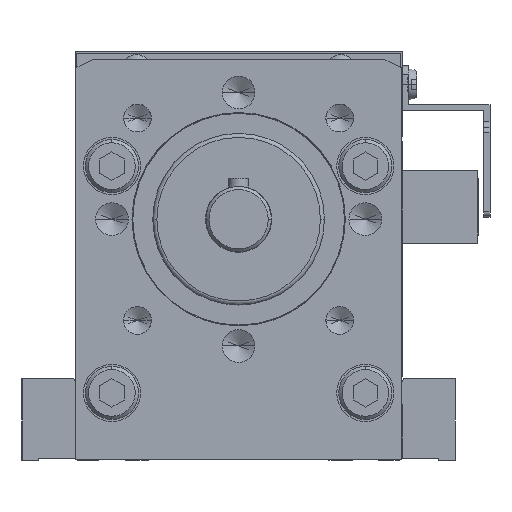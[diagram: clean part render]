
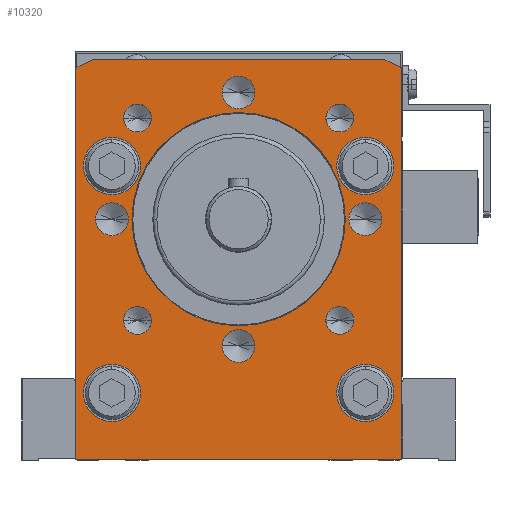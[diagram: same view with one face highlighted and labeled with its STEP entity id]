
A CAD part, front view. The second image highlights one B-rep face of the part: STEP entity #10320.
In plain terms, the highlighted planar face has unit normal (0, -1, 0) as drawn and (0, 0, 1) by its records, which use the part's own axes.
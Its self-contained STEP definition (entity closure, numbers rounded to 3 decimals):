
#7560=CARTESIAN_POINT('',(0.,997.085,388.));
#7570=DIRECTION('',(0.894,-0.447,
0.));
#7580=VECTOR('',#7570,1.);
#7590=LINE('',#7560,#7580);
#7600=CARTESIAN_POINT('',(1645.85,174.16,
388.));
#7610=VERTEX_POINT('',#7600);
#7620=CARTESIAN_POINT('',(1649.85,172.16,
388.));
#7630=VERTEX_POINT('',#7620);
#7640=EDGE_CURVE('',#7610,#7630,#7590,.T.);
#7910=CARTESIAN_POINT('',(1599.825,134.622,
388.));
#7920=DIRECTION('',(0.,0.,-1.));
#7930=DIRECTION('',(-1.,0.,0.));
#7940=AXIS2_PLACEMENT_3D('',#7910,#7920,#7930);
#7950=PLANE('',#7940);
#7960=CARTESIAN_POINT('',(1610.05,104.16,
388.));
#7970=DIRECTION('',(0.,0.,1.));
#7980=DIRECTION('',(-1.,0.,0.));
#7990=AXIS2_PLACEMENT_3D('',#7960,#7970,#7980);
#8000=CIRCLE('',#7990,4.);
#8010=CARTESIAN_POINT('',(1606.05,104.16,
388.));
#8020=VERTEX_POINT('',#8010);
#8030=CARTESIAN_POINT('',(1614.05,104.16,
388.));
#8040=VERTEX_POINT('',#8030);
#8050=EDGE_CURVE('',#8020,#8040,#8000,.T.);
#8060=ORIENTED_EDGE('',*,*,#8050,.F.);
#8070=EDGE_CURVE('',#8040,#8020,#8000,.T.);
#8080=ORIENTED_EDGE('',*,*,#8070,.F.);
#8090=EDGE_LOOP('',(#8080,#8060));
#8100=FACE_BOUND('',#8090,.T.);
#8110=CARTESIAN_POINT('',(1641.05,135.16,
388.));
#8120=DIRECTION('',(0.,0.,1.));
#8130=DIRECTION('',(-1.,0.,0.));
#8140=AXIS2_PLACEMENT_3D('',#8110,#8120,#8130);
#8150=CIRCLE('',#8140,4.);
#8160=CARTESIAN_POINT('',(1637.05,135.16,
388.));
#8170=VERTEX_POINT('',#8160);
#8180=CARTESIAN_POINT('',(1645.05,135.16,
388.));
#8190=VERTEX_POINT('',#8180);
#8200=EDGE_CURVE('',#8170,#8190,#8150,.T.);
#8210=ORIENTED_EDGE('',*,*,#8200,.F.);
#8220=EDGE_CURVE('',#8190,#8170,#8150,.T.);
#8230=ORIENTED_EDGE('',*,*,#8220,.F.);
#8240=EDGE_LOOP('',(#8230,#8210));
#8250=FACE_BOUND('',#8240,.T.);
#8260=CARTESIAN_POINT('',(1579.05,135.16,
388.));
#8270=DIRECTION('',(0.,0.,1.));
#8280=DIRECTION('',(-1.,0.,0.));
#8290=AXIS2_PLACEMENT_3D('',#8260,#8270,#8280);
#8300=CIRCLE('',#8290,4.);
#8310=CARTESIAN_POINT('',(1575.05,135.16,
388.));
#8320=VERTEX_POINT('',#8310);
#8330=CARTESIAN_POINT('',(1583.05,135.16,
388.));
#8340=VERTEX_POINT('',#8330);
#8350=EDGE_CURVE('',#8320,#8340,#8300,.T.);
#8360=ORIENTED_EDGE('',*,*,#8350,.F.);
#8370=EDGE_CURVE('',#8340,#8320,#8300,.T.);
#8380=ORIENTED_EDGE('',*,*,#8370,.F.);
#8390=EDGE_LOOP('',(#8380,#8360));
#8400=FACE_BOUND('',#8390,.T.);
#8410=CARTESIAN_POINT('',(1634.8,159.91,
388.));
#8420=DIRECTION('',(0.,0.,1.));
#8430=DIRECTION('',(-1.,0.,0.));
#8440=AXIS2_PLACEMENT_3D('',#8410,#8420,#8430);
#8450=CIRCLE('',#8440,3.4);
#8460=CARTESIAN_POINT('',(1631.4,159.91,
388.));
#8470=VERTEX_POINT('',#8460);
#8480=CARTESIAN_POINT('',(1638.2,159.91,
388.));
#8490=VERTEX_POINT('',#8480);
#8500=EDGE_CURVE('',#8470,#8490,#8450,.T.);
#8510=ORIENTED_EDGE('',*,*,#8500,.F.);
#8520=EDGE_CURVE('',#8490,#8470,#8450,.T.);
#8530=ORIENTED_EDGE('',*,*,#8520,.F.);
#8540=EDGE_LOOP('',(#8530,#8510));
#8550=FACE_BOUND('',#8540,.T.);
#8560=CARTESIAN_POINT('',(1585.3,159.91,
388.));
#8570=DIRECTION('',(0.,0.,1.));
#8580=DIRECTION('',(-1.,0.,0.));
#8590=AXIS2_PLACEMENT_3D('',#8560,#8570,#8580);
#8600=CIRCLE('',#8590,3.4);
#8610=CARTESIAN_POINT('',(1581.9,159.91,
388.));
#8620=VERTEX_POINT('',#8610);
#8630=CARTESIAN_POINT('',(1588.7,159.91,
388.));
#8640=VERTEX_POINT('',#8630);
#8650=EDGE_CURVE('',#8620,#8640,#8600,.T.);
#8660=ORIENTED_EDGE('',*,*,#8650,.F.);
#8670=EDGE_CURVE('',#8640,#8620,#8600,.T.);
#8680=ORIENTED_EDGE('',*,*,#8670,.F.);
#8690=EDGE_LOOP('',(#8680,#8660));
#8700=FACE_BOUND('',#8690,.T.);
#8710=CARTESIAN_POINT('',(1585.3,110.41,
388.));
#8720=DIRECTION('',(0.,0.,1.));
#8730=DIRECTION('',(-1.,0.,0.));
#8740=AXIS2_PLACEMENT_3D('',#8710,#8720,#8730);
#8750=CIRCLE('',#8740,3.4);
#8760=CARTESIAN_POINT('',(1581.9,110.41,
388.));
#8770=VERTEX_POINT('',#8760);
#8780=CARTESIAN_POINT('',(1588.7,110.41,
388.));
#8790=VERTEX_POINT('',#8780);
#8800=EDGE_CURVE('',#8770,#8790,#8750,.T.);
#8810=ORIENTED_EDGE('',*,*,#8800,.F.);
#8820=EDGE_CURVE('',#8790,#8770,#8750,.T.);
#8830=ORIENTED_EDGE('',*,*,#8820,.F.);
#8840=EDGE_LOOP('',(#8830,#8810));
#8850=FACE_BOUND('',#8840,.T.);
#8860=CARTESIAN_POINT('',(1634.8,110.41,
388.));
#8870=DIRECTION('',(0.,0.,1.));
#8880=DIRECTION('',(-1.,0.,0.));
#8890=AXIS2_PLACEMENT_3D('',#8860,#8870,#8880);
#8900=CIRCLE('',#8890,3.4);
#8910=CARTESIAN_POINT('',(1631.4,110.41,
388.));
#8920=VERTEX_POINT('',#8910);
#8930=CARTESIAN_POINT('',(1638.2,110.41,
388.));
#8940=VERTEX_POINT('',#8930);
#8950=EDGE_CURVE('',#8920,#8940,#8900,.T.);
#8960=ORIENTED_EDGE('',*,*,#8950,.F.);
#8970=EDGE_CURVE('',#8940,#8920,#8900,.T.);
#8980=ORIENTED_EDGE('',*,*,#8970,.F.);
#8990=EDGE_LOOP('',(#8980,#8960));
#9000=FACE_BOUND('',#8990,.T.);
#9010=CARTESIAN_POINT('',(1641.05,92.66,
388.));
#9020=DIRECTION('',(0.,0.,1.));
#9030=DIRECTION('',(1.,0.,0.));
#9040=AXIS2_PLACEMENT_3D('',#9010,#9020,#9030);
#9050=CIRCLE('',#9040,7.);
#9060=CARTESIAN_POINT('',(1648.05,92.66,
388.));
#9070=VERTEX_POINT('',#9060);
#9080=CARTESIAN_POINT('',(1634.05,92.66,
388.));
#9090=VERTEX_POINT('',#9080);
#9100=EDGE_CURVE('',#9070,#9090,#9050,.T.);
#9110=ORIENTED_EDGE('',*,*,#9100,.F.);
#9120=EDGE_CURVE('',#9090,#9070,#9050,.T.);
#9130=ORIENTED_EDGE('',*,*,#9120,.F.);
#9140=EDGE_LOOP('',(#9130,#9110));
#9150=FACE_BOUND('',#9140,.T.);
#9160=CARTESIAN_POINT('',(1641.05,148.16,
388.));
#9170=DIRECTION('',(0.,0.,1.));
#9180=DIRECTION('',(1.,0.,0.));
#9190=AXIS2_PLACEMENT_3D('',#9160,#9170,#9180);
#9200=CIRCLE('',#9190,7.);
#9210=CARTESIAN_POINT('',(1648.05,148.16,
388.));
#9220=VERTEX_POINT('',#9210);
#9230=CARTESIAN_POINT('',(1634.05,148.16,
388.));
#9240=VERTEX_POINT('',#9230);
#9250=EDGE_CURVE('',#9220,#9240,#9200,.T.);
#9260=ORIENTED_EDGE('',*,*,#9250,.F.);
#9270=EDGE_CURVE('',#9240,#9220,#9200,.T.);
#9280=ORIENTED_EDGE('',*,*,#9270,.F.);
#9290=EDGE_LOOP('',(#9280,#9260));
#9300=FACE_BOUND('',#9290,.T.);
#9310=CARTESIAN_POINT('',(1579.05,148.16,
388.));
#9320=DIRECTION('',(0.,0.,1.));
#9330=DIRECTION('',(1.,0.,0.));
#9340=AXIS2_PLACEMENT_3D('',#9310,#9320,#9330);
#9350=CIRCLE('',#9340,7.);
#9360=CARTESIAN_POINT('',(1586.05,148.16,
388.));
#9370=VERTEX_POINT('',#9360);
#9380=CARTESIAN_POINT('',(1572.05,148.16,
388.));
#9390=VERTEX_POINT('',#9380);
#9400=EDGE_CURVE('',#9370,#9390,#9350,.T.);
#9410=ORIENTED_EDGE('',*,*,#9400,.F.);
#9420=EDGE_CURVE('',#9390,#9370,#9350,.T.);
#9430=ORIENTED_EDGE('',*,*,#9420,.F.);
#9440=EDGE_LOOP('',(#9430,#9410));
#9450=FACE_BOUND('',#9440,.T.);
#9460=CARTESIAN_POINT('',(1579.05,92.66,
388.));
#9470=DIRECTION('',(0.,0.,1.));
#9480=DIRECTION('',(1.,0.,0.));
#9490=AXIS2_PLACEMENT_3D('',#9460,#9470,#9480);
#9500=CIRCLE('',#9490,7.);
#9510=CARTESIAN_POINT('',(1586.05,92.66,
388.));
#9520=VERTEX_POINT('',#9510);
#9530=CARTESIAN_POINT('',(1572.05,92.66,
388.));
#9540=VERTEX_POINT('',#9530);
#9550=EDGE_CURVE('',#9520,#9540,#9500,.T.);
#9560=ORIENTED_EDGE('',*,*,#9550,.F.);
#9570=EDGE_CURVE('',#9540,#9520,#9500,.T.);
#9580=ORIENTED_EDGE('',*,*,#9570,.F.);
#9590=EDGE_LOOP('',(#9580,#9560));
#9600=FACE_BOUND('',#9590,.T.);
#9610=CARTESIAN_POINT('',(1610.05,135.16,
388.));
#9620=DIRECTION('',(0.,0.,1.));
#9630=DIRECTION('',(1.,0.,0.));
#9640=AXIS2_PLACEMENT_3D('',#9610,#9620,#9630);
#9650=CIRCLE('',#9640,26.1);
#9660=CARTESIAN_POINT('',(1583.95,135.16,
388.));
#9670=VERTEX_POINT('',#9660);
#9680=CARTESIAN_POINT('',(1636.15,135.16,
388.));
#9690=VERTEX_POINT('',#9680);
#9700=EDGE_CURVE('',#9670,#9690,#9650,.T.);
#9710=ORIENTED_EDGE('',*,*,#9700,.F.);
#9720=EDGE_CURVE('',#9690,#9670,#9650,.T.);
#9730=ORIENTED_EDGE('',*,*,#9720,.F.);
#9740=EDGE_LOOP('',(#9730,#9710));
#9750=FACE_BOUND('',#9740,.T.);
#9760=CARTESIAN_POINT('',(1610.05,166.16,
388.));
#9770=DIRECTION('',(0.,0.,1.));
#9780=DIRECTION('',(-1.,0.,0.));
#9790=AXIS2_PLACEMENT_3D('',#9760,#9770,#9780);
#9800=CIRCLE('',#9790,4.);
#9810=CARTESIAN_POINT('',(1606.05,166.16,
388.));
#9820=VERTEX_POINT('',#9810);
#9830=CARTESIAN_POINT('',(1614.05,166.16,
388.));
#9840=VERTEX_POINT('',#9830);
#9850=EDGE_CURVE('',#9820,#9840,#9800,.T.);
#9860=ORIENTED_EDGE('',*,*,#9850,.F.);
#9870=EDGE_CURVE('',#9840,#9820,#9800,.T.);
#9880=ORIENTED_EDGE('',*,*,#9870,.F.);
#9890=EDGE_LOOP('',(#9880,#9860));
#9900=FACE_BOUND('',#9890,.T.);
#9910=CARTESIAN_POINT('',(1649.85,0.,388.));
#9920=DIRECTION('',(0.,-1.,0.));
#9930=VECTOR('',#9920,1.);
#9940=LINE('',#9910,#9930);
#9950=CARTESIAN_POINT('',(1649.85,76.46,
388.));
#9960=VERTEX_POINT('',#9950);
#9970=EDGE_CURVE('',#7630,#9960,#9940,.T.);
#9980=ORIENTED_EDGE('',*,*,#9970,.F.);
#9990=CARTESIAN_POINT('',(0.,76.46,388.));
#10000=DIRECTION('',(1.,0.,0.));
#10010=VECTOR('',#10000,1.);
#10020=LINE('',#9990,#10010);
#10030=CARTESIAN_POINT('',(1570.25,76.46,
388.));
#10040=VERTEX_POINT('',#10030);
#10050=EDGE_CURVE('',#10040,#9960,#10020,.T.);
#10060=ORIENTED_EDGE('',*,*,#10050,.T.);
#10070=CARTESIAN_POINT('',(1570.25,0.,388.));
#10080=DIRECTION('',(0.,1.,0.));
#10090=VECTOR('',#10080,1.);
#10100=LINE('',#10070,#10090);
#10110=CARTESIAN_POINT('',(1570.25,172.16,
388.));
#10120=VERTEX_POINT('',#10110);
#10130=EDGE_CURVE('',#10040,#10120,#10100,.T.);
#10140=ORIENTED_EDGE('',*,*,#10130,.F.);
#10150=CARTESIAN_POINT('',(0.,-612.965,388.));
#10160=DIRECTION('',(0.894,0.447,
0.));
#10170=VECTOR('',#10160,1.);
#10180=LINE('',#10150,#10170);
#10190=CARTESIAN_POINT('',(1574.25,174.16,
388.));
#10200=VERTEX_POINT('',#10190);
#10210=EDGE_CURVE('',#10120,#10200,#10180,.T.);
#10220=ORIENTED_EDGE('',*,*,#10210,.F.);
#10230=CARTESIAN_POINT('',(0.,174.16,388.));
#10240=DIRECTION('',(1.,0.,0.));
#10250=VECTOR('',#10240,1.);
#10260=LINE('',#10230,#10250);
#10270=EDGE_CURVE('',#10200,#7610,#10260,.T.);
#10280=ORIENTED_EDGE('',*,*,#10270,.F.);
#10290=ORIENTED_EDGE('',*,*,#7640,.F.);
#10300=EDGE_LOOP('',(#10290,#10280,#10220,#10140,#10060,#9980));
#10310=FACE_OUTER_BOUND('',#10300,.T.);
#10320=ADVANCED_FACE('',(#8100,#8250,#8400,#8550,#8700,#8850,#9000,#9150
,#9300,#9450,#9600,#9750,#9900,#10310),#7950,.F.);
